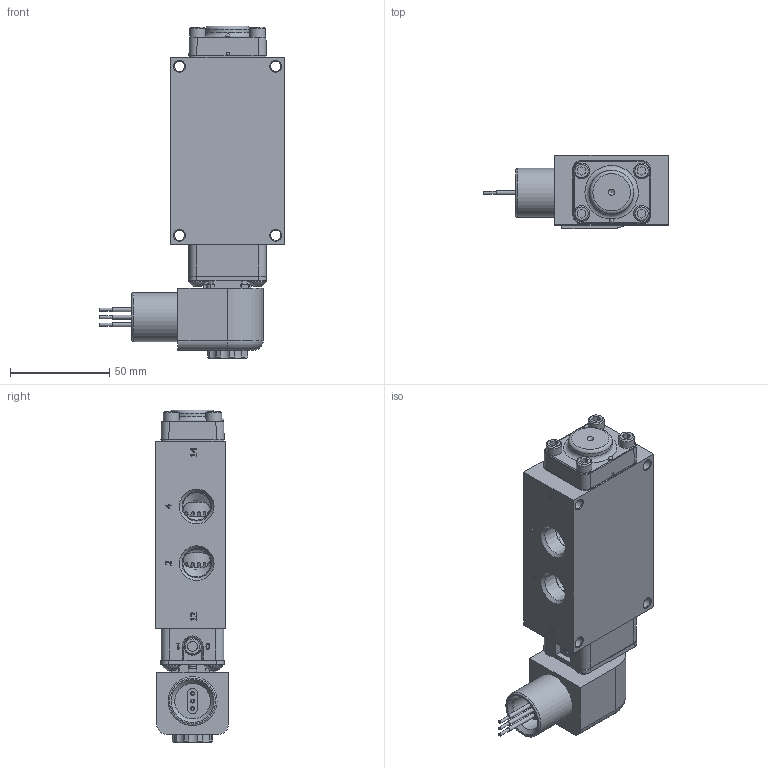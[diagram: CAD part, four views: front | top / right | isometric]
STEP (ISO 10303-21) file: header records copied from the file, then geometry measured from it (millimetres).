
FILE_DESCRIPTION(/* description */ (''),/* implementation_level */ '2;1');
FILE_NAME(/* name */ 'D:\Website Files\stp\Valves\Standard\ESO\ZESO3X.stp',/* time_stamp */ '2015-03-13T14:46:49-04:00',/* author */ ('RMcKenna'),/* organization */ (''),/* preprocessor_version */ 'ST-DEVELOPER v15.6',/* originating_system */ 'Autodesk Inventor 2015',/* authorisation */ '');
FILE_SCHEMA (('AUTOMOTIVE_DESIGN { 1 0 10303 214 3 1 1 }'));
Length unit declared in the file: centimetre
Products named in the file (1): Part2
Bounding box: 92.98 x 36.57 x 166.99 mm (x, y, z)
Volume: 234477.9 mm3; surface area: 75580.2 mm2
Topology: 1 solids, 19 shells, 1559 faces, 3812 edges, 2425 vertices
Faces by surface type: plane 709, cylinder 374, cone 266, torus 118, bspline 87, sphere 5
Full cylindrical faces by diameter (mm): 1.3 x1, 1.397 x1, 1.5 x2, 1.524 x3, 2.007 x2, 2.032 x11, 2.35 x4, 2.381 x1, 2.8 x1, 2.819 x1, 3 x4, 3.048 x1, 3.175 x2, 3.4 x1, 3.683 x9, 4.191 x2, 4.305 x1, 4.394 x1, 4.826 x8, 4.953 x1, 5.15 x4, 5.156 x12, 5.5 x1, 6.553 x1, 6.9 x1, 7.188 x1, 7.75 x1, 7.938 x4, 8 x2, 8.001 x1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
Entity records: 48568 total; most frequent: CARTESIAN_POINT 12094, DIRECTION 7158, ORIENTED_EDGE 6890, EDGE_CURVE 3443, AXIS2_PLACEMENT_3D 2723, VERTEX_POINT 2322, EDGE_LOOP 2015, LINE 1712
